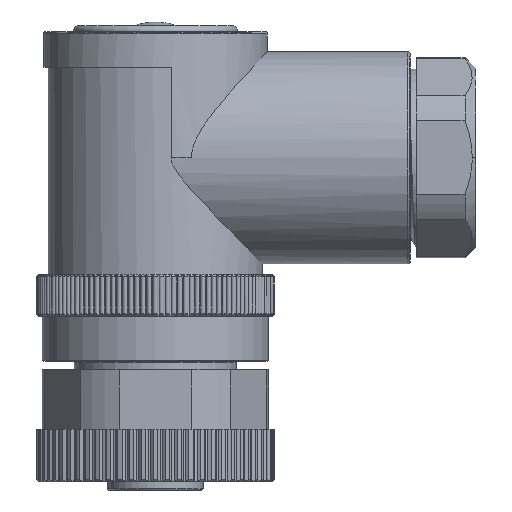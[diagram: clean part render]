
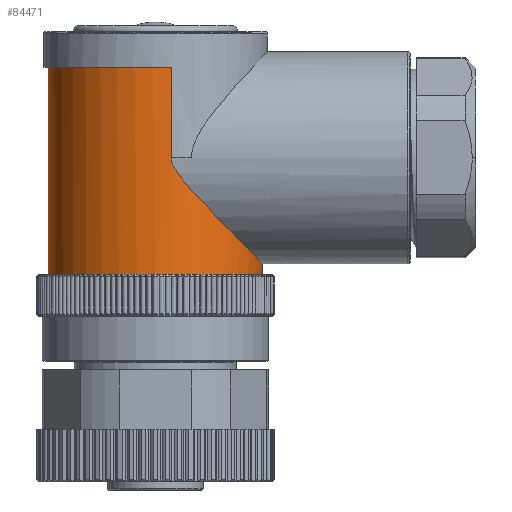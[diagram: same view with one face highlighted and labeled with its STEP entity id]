
A CAD part, front view. The second image highlights one B-rep face of the part: STEP entity #84471.
In plain terms, the highlighted cylindrical face has radius 9 mm (diameter 18 mm), a partial arc.
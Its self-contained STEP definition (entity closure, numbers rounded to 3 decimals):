
#17898=CARTESIAN_POINT('',(9.,0.,6.));
#17899=CARTESIAN_POINT('',(9.,-0.089,
6.));
#17900=CARTESIAN_POINT('',(8.997,-0.267,
6.003));
#17901=CARTESIAN_POINT('',(8.985,-0.534,
6.015));
#17902=CARTESIAN_POINT('',(8.966,-0.801,
6.035));
#17903=CARTESIAN_POINT('',(8.938,-1.068,
6.063));
#17904=CARTESIAN_POINT('',(8.902,-1.335,
6.099));
#17905=CARTESIAN_POINT('',(8.858,-1.603,
6.144));
#17906=CARTESIAN_POINT('',(8.805,-1.871,
6.197));
#17907=CARTESIAN_POINT('',(8.744,-2.139,
6.259));
#17908=CARTESIAN_POINT('',(8.674,-2.407,
6.33));
#17909=CARTESIAN_POINT('',(8.595,-2.676,
6.41));
#17910=CARTESIAN_POINT('',(8.506,-2.944,
6.5));
#17911=CARTESIAN_POINT('',(8.409,-3.213,
6.599));
#17912=CARTESIAN_POINT('',(8.301,-3.482,
6.708));
#17913=CARTESIAN_POINT('',(8.183,-3.75,
6.827));
#17914=CARTESIAN_POINT('',(8.055,-4.018,
6.957));
#17915=CARTESIAN_POINT('',(7.917,-4.285,
7.097));
#17916=CARTESIAN_POINT('',(7.767,-4.551,
7.249));
#17917=CARTESIAN_POINT('',(7.606,-4.815,
7.413));
#17918=CARTESIAN_POINT('',(7.433,-5.078,
7.588));
#17919=CARTESIAN_POINT('',(7.248,-5.338,
7.776));
#17920=CARTESIAN_POINT('',(7.052,-5.596,
7.977));
#17921=CARTESIAN_POINT('',(6.842,-5.85,
8.19));
#17922=CARTESIAN_POINT('',(6.62,-6.1,
8.416));
#17923=CARTESIAN_POINT('',(6.386,-6.345,
8.656));
#17924=CARTESIAN_POINT('',(6.138,-6.585,
8.909));
#17925=CARTESIAN_POINT('',(5.878,-6.818,
9.176));
#17926=CARTESIAN_POINT('',(5.605,-7.045,
9.457));
#17927=CARTESIAN_POINT('',(5.319,-7.263,
9.751));
#17928=CARTESIAN_POINT('',(5.022,-7.472,
10.06));
#17929=CARTESIAN_POINT('',(4.712,-7.671,
10.381));
#17930=CARTESIAN_POINT('',(4.393,-7.858,
10.716));
#17931=CARTESIAN_POINT('',(4.063,-8.034,
11.063));
#17932=CARTESIAN_POINT('',(3.727,-8.195,
11.42));
#17933=CARTESIAN_POINT('',(3.384,-8.342,
11.791));
#17934=CARTESIAN_POINT('',(3.048,-8.471,
12.16));
#17935=CARTESIAN_POINT('',(2.758,-8.568,
12.487));
#17936=CARTESIAN_POINT('',(2.508,-8.644,
12.776));
#17937=CARTESIAN_POINT('',(2.292,-8.704,
13.037));
#17938=CARTESIAN_POINT('',(2.107,-8.751,
13.27));
#17939=CARTESIAN_POINT('',(1.949,-8.787,
13.481));
#17940=CARTESIAN_POINT('',(1.816,-8.815,
13.67));
#17941=CARTESIAN_POINT('',(1.705,-8.837,
13.84));
#17942=CARTESIAN_POINT('',(1.615,-8.854,
13.993));
#17943=CARTESIAN_POINT('',(1.542,-8.867,
14.13));
#17944=CARTESIAN_POINT('',(1.485,-8.877,
14.252));
#17945=CARTESIAN_POINT('',(1.441,-8.884,
14.362));
#17946=CARTESIAN_POINT('',(1.406,-8.889,
14.464));
#17947=CARTESIAN_POINT('',(1.38,-8.894,
14.558));
#17948=CARTESIAN_POINT('',(1.361,-8.897,
14.647));
#17949=CARTESIAN_POINT('',(1.347,-8.899,
14.733));
#17950=CARTESIAN_POINT('',(1.34,-8.9,
14.817));
#17951=CARTESIAN_POINT('',(1.338,-8.9,
14.872));
#17952=CARTESIAN_POINT('',(1.338,-8.9,
14.9));
#37172=CARTESIAN_POINT('',(0.,0.,5.1));
#37173=DIRECTION('',(0.,0.,-1.));
#37174=DIRECTION('',(1.,0.,0.));
#37175=AXIS2_PLACEMENT_3D('',#37172,#37173,#37174);
#37177=DIRECTION('',(0.,0.,-1.));
#37178=VECTOR('',#37177,17.4);
#37179=CARTESIAN_POINT('',(-9.,0.,22.5));
#37180=LINE('',#37179,#37178);
#37181=DIRECTION('',(0.,0.,-1.));
#37182=VECTOR('',#37181,7.6);
#37183=CARTESIAN_POINT('',(1.338,-8.9,22.5));
#37184=LINE('',#37183,#37182);
#37185=DIRECTION('',(0.,0.,-1.));
#37186=VECTOR('',#37185,0.9);
#37187=CARTESIAN_POINT('',(9.,0.,6.));
#37188=LINE('',#37187,#37186);
#37193=CARTESIAN_POINT('',(0.,0.,22.5));
#37194=DIRECTION('',(0.,0.,1.));
#37195=DIRECTION('',(-1.,0.,0.));
#37196=AXIS2_PLACEMENT_3D('',#37193,#37194,#37195);
#45886=CARTESIAN_POINT('',(1.338,-8.9,22.5));
#45888=VERTEX_POINT('',#45886);
#45891=CARTESIAN_POINT('',(1.338,-8.9,
14.9));
#45893=VERTEX_POINT('',#45891);
#46140=CARTESIAN_POINT('',(9.,0.,6.));
#46142=VERTEX_POINT('',#46140);
#46180=CARTESIAN_POINT('',(-9.,0.,22.5));
#46181=VERTEX_POINT('',#46180);
#50340=CARTESIAN_POINT('',(-9.,0.,5.1));
#50341=CARTESIAN_POINT('',(9.,0.,5.1));
#50342=VERTEX_POINT('',#50340);
#50343=VERTEX_POINT('',#50341);
#84456=CARTESIAN_POINT('',(0.,0.,4.5));
#84457=DIRECTION('',(0.,0.,-1.));
#84458=DIRECTION('',(-1.,0.,0.));
#84459=AXIS2_PLACEMENT_3D('',#84456,#84457,#84458);
#84460=CYLINDRICAL_SURFACE('',#84459,9.);
#84461=ORIENTED_EDGE('',*,*,#67286,.T.);
#84462=ORIENTED_EDGE('',*,*,#66790,.F.);
#84464=ORIENTED_EDGE('',*,*,#84463,.T.);
#84466=ORIENTED_EDGE('',*,*,#84465,.T.);
#84467=ORIENTED_EDGE('',*,*,#66747,.F.);
#84468=ORIENTED_EDGE('',*,*,#66783,.T.);
#84469=EDGE_LOOP('',(#84461,#84462,#84464,#84466,#84467,#84468));
#84470=FACE_OUTER_BOUND('',#84469,.F.);
#84471=ADVANCED_FACE('',(#84470),#84460,.T.);
#17953=B_SPLINE_CURVE_WITH_KNOTS('',3,(#17898,#17899,#17900,#17901,#17902,
#17903,#17904,#17905,#17906,#17907,#17908,#17909,#17910,#17911,#17912,#17913,
#17914,#17915,#17916,#17917,#17918,#17919,#17920,#17921,#17922,#17923,#17924,
#17925,#17926,#17927,#17928,#17929,#17930,#17931,#17932,#17933,#17934,#17935,
#17936,#17937,#17938,#17939,#17940,#17941,#17942,#17943,#17944,#17945,#17946,
#17947,#17948,#17949,#17950,#17951,#17952),.UNSPECIFIED.,.F.,.F.,(4,1,1,1,1,1,1,
1,1,1,1,1,1,1,1,1,1,1,1,1,1,1,1,1,1,1,1,1,1,1,1,1,1,1,1,1,1,1,1,1,1,1,1,1,1,1,1,
1,1,1,1,1,4),(0.,0.019,0.038,0.058,
0.077,0.096,0.115,0.135,
0.154,0.173,0.192,0.212,
0.231,0.25,0.269,0.288,0.308,
0.327,0.346,0.365,0.385,
0.404,0.423,0.442,0.462,
0.481,0.5,0.519,0.538,0.558,
0.577,0.596,0.615,0.635,
0.654,0.673,0.692,0.712,
0.731,0.75,0.769,0.788,0.808,
0.827,0.846,0.865,0.885,
0.904,0.923,0.942,0.962,
0.981,1.),.UNSPECIFIED.);
#37176=CIRCLE('',#37175,9.);
#37197=CIRCLE('',#37196,9.);
#66747=EDGE_CURVE('',#46142,#45893,#17953,.T.);
#66783=EDGE_CURVE('',#46142,#50343,#37188,.T.);
#66790=EDGE_CURVE('',#46181,#50342,#37180,.T.);
#67286=EDGE_CURVE('',#50343,#50342,#37176,.T.);
#84463=EDGE_CURVE('',#46181,#45888,#37197,.T.);
#84465=EDGE_CURVE('',#45888,#45893,#37184,.T.);
